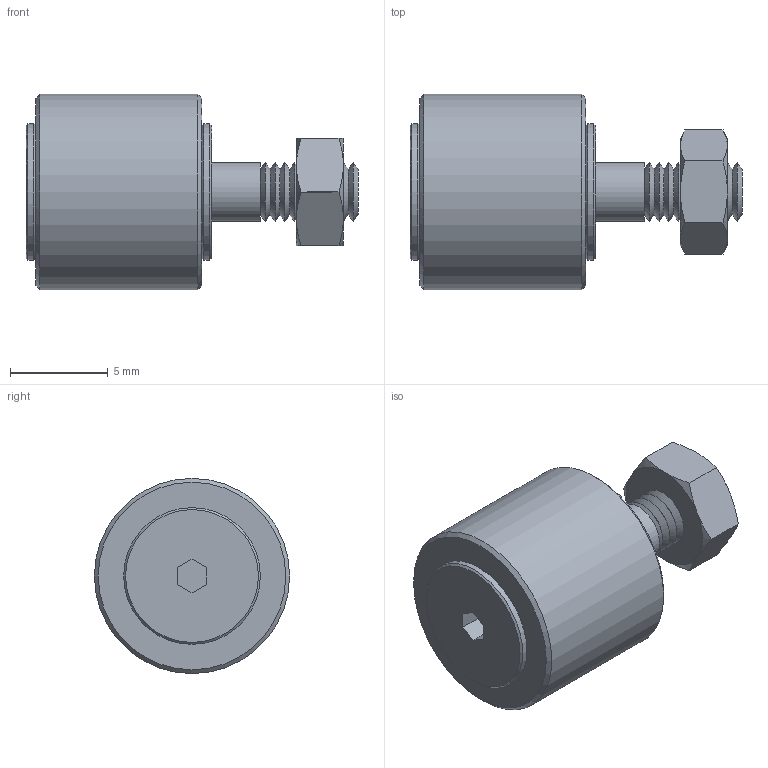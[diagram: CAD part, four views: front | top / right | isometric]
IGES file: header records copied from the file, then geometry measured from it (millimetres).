
Global section: file name:  ; native system: Kubotek KeyCreator; preprocessor: KCM Version 1.1.28; author: KeyCreator•p{ž; organization: Self; date: 20160520.070049; units: millimetre
Bounding box: 17 x 10 x 10 mm (x, y, z)
Surface area: 595.4 mm2 (no closed solid volume)
Topology: 0 solids, 0 shells, 55 faces, 210 edges, 194 vertices
Faces by surface type: revolution 34, plane 21
